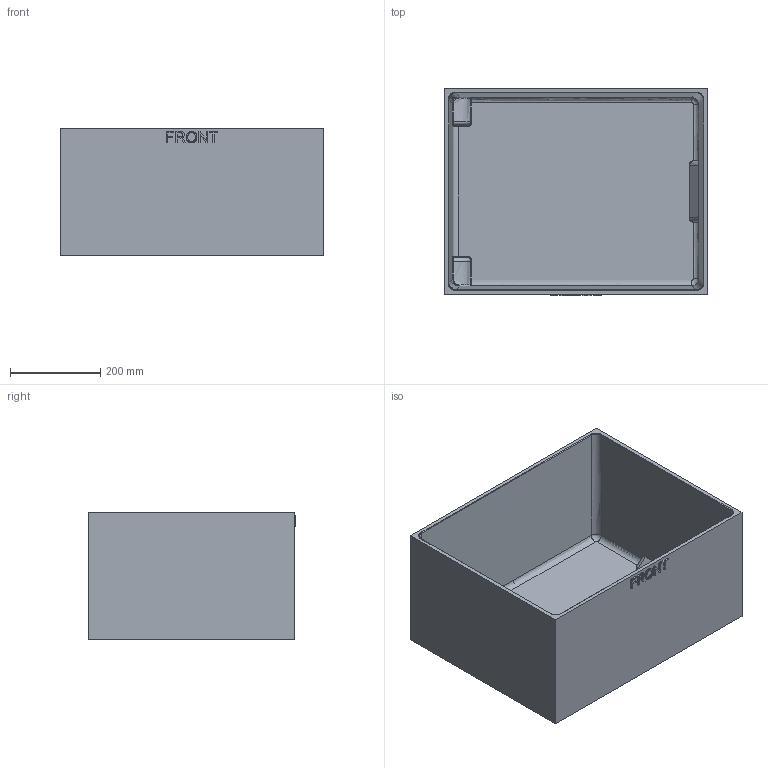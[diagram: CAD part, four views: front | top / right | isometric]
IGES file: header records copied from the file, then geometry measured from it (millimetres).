
Start section: Comment
Global section: file name: 2750-base_internal_tub.igs; native system:  By UGS Corp.; preprocessor: XPlus GENERIC/IGES 3.0; author: Author; organization: Title; date: 20100513.154532; units: millimetre
Bounding box: 584.2 x 460.38 x 282.57 mm (x, y, z)
Surface area: 1626837.7 mm2 (no closed solid volume)
Topology: 0 solids, 0 shells, 115 faces, 695 edges, 695 vertices
Faces by surface type: bspline 115
